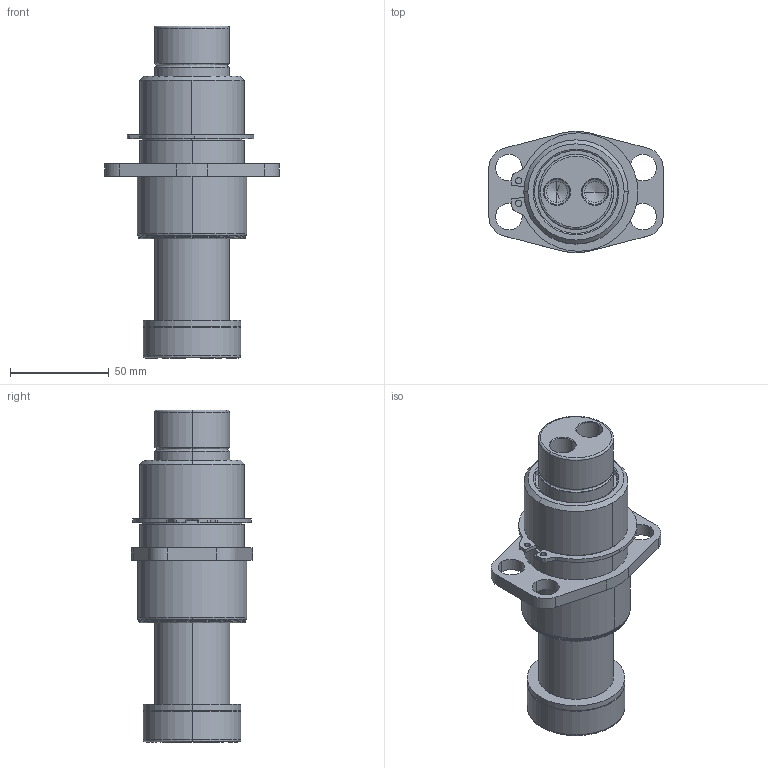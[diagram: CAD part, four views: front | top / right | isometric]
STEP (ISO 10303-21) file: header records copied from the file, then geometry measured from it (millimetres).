
FILE_DESCRIPTION (( 'STEP AP214' ), '1' );
FILE_NAME ('GK152-N3-2-TB-E-XXX.STEP', '2020-09-21T19:30:49', ( '' ), ( '' ), 'SwSTEP 2.0', 'SolidWorks 2017', '' );
FILE_SCHEMA (( 'AUTOMOTIVE_DESIGN' ));
Length unit declared in the file: inch
Products named in the file (7): GK1.50-N3-2-TB-Base; GK152-N3-2-TB-E-XXX; GK152-E-XXX-GuidePin; GK152-DampeningWasher; RetainingRing
Assembly tree (6 placements, depth 3):
  GK152-N3-2-TB-E-XXX
    GK1.50-N3-2-TB-Base
      GK1.50-N3-2-TB-Base
      RetainingRing
    GK152-E-XXX-GuidePin
      GK152-E-XXX-GuidePin
      GK152-DampeningWasher
Bounding box: 88.34 x 61.36 x 168.28 mm (x, y, z)
Volume: 296899 mm3; surface area: 64510.5 mm2
Topology: 4 solids, 4 shells, 131 faces, 309 edges, 190 vertices
Faces by surface type: cylinder 63, plane 26, cone 22, bspline 20
Entity records: 4560 total; most frequent: CARTESIAN_POINT 1065, DIRECTION 713, ORIENTED_EDGE 610, EDGE_CURVE 305, AXIS2_PLACEMENT_3D 296, VERTEX_POINT 190, CIRCLE 174, EDGE_LOOP 155
